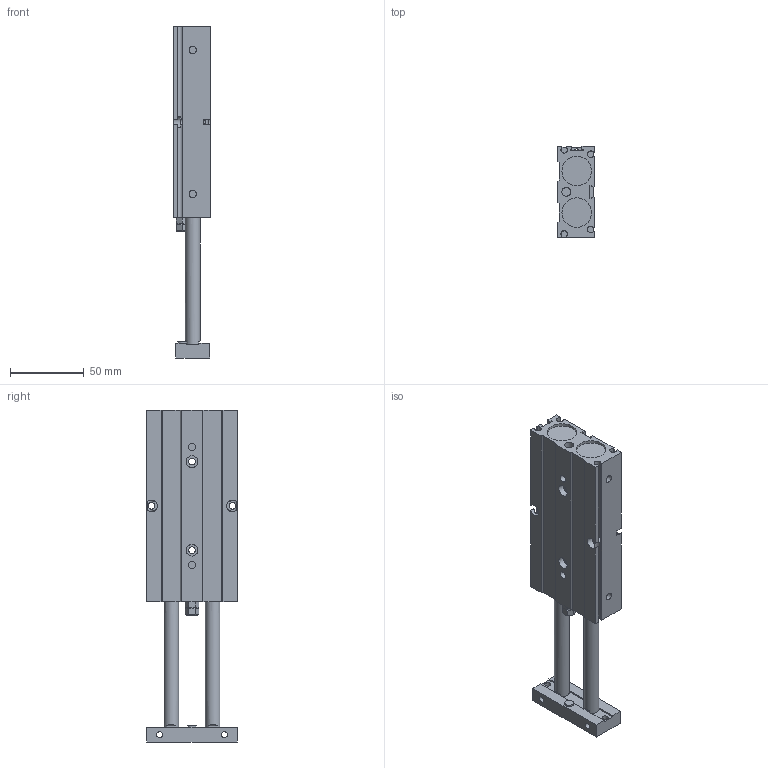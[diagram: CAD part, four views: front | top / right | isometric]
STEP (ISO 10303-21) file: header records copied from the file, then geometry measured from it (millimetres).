
FILE_DESCRIPTION((''),'2;1');
FILE_NAME('I:\3D電子目錄\氣缸\TD\TD20\TD20\TD20x75.stp','2007-08-06T09:47:21',('Administrator'),(''),'Autodesk Inventor 2008','Autodesk Inventor 2008','');
FILE_SCHEMA(('AUTOMOTIVE_DESIGN { 1 0 10303 214 1 1 1 1 }'));
Length unit declared in the file: millimetre
Products named in the file (1): TD20X75
Bounding box: 25 x 62 x 225 mm (x, y, z)
Volume: 203739.8 mm3; surface area: 46739.1 mm2
Topology: 1 solids, 3 shells, 197 faces, 503 edges, 329 vertices
Faces by surface type: plane 136, cylinder 48, cone 7, bspline 4, torus 2
Full cylindrical faces by diameter (mm): 4 x4, 4.5 x4, 5 x4, 6 x2, 7 x2, 8 x6, 9 x2, 10 x2, 20 x4
Entity records: 6108 total; most frequent: CARTESIAN_POINT 1453, DIRECTION 927, ORIENTED_EDGE 916, EDGE_CURVE 458, VERTEX_POINT 323, AXIS2_PLACEMENT_3D 310, VECTOR 307, LINE 307
